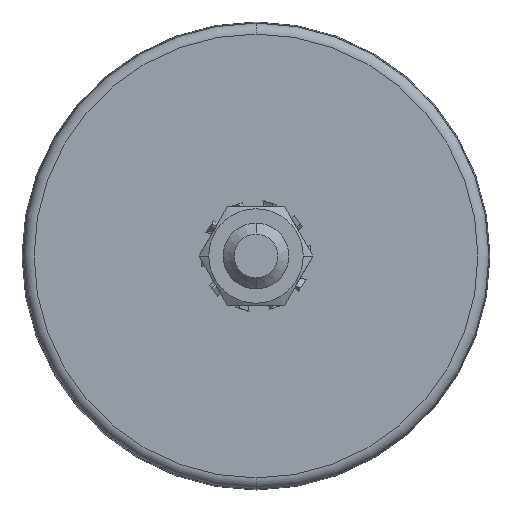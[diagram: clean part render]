
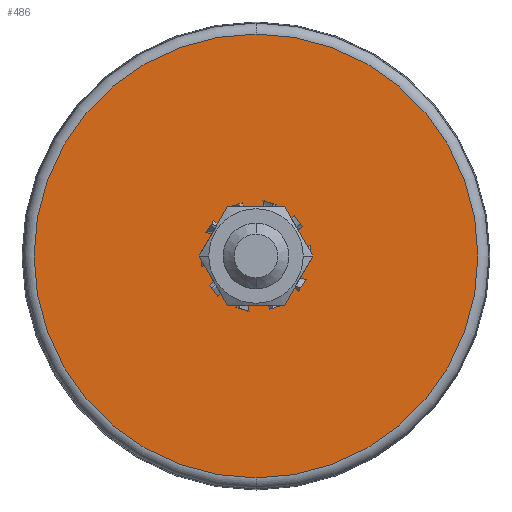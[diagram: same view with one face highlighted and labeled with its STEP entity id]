
A CAD part, front view. The second image highlights one B-rep face of the part: STEP entity #486.
In plain terms, the highlighted planar face has unit normal (0, -1, 0).
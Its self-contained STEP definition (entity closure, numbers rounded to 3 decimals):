
#139 = AXIS2_PLACEMENT_3D ( 'NONE', #205, #7052, #1259 ) ;
#205 = CARTESIAN_POINT ( 'NONE',  ( 0., 0., 0. ) ) ;
#255 = PLANE ( 'NONE',  #2507 ) ;
#273 = DIRECTION ( 'NONE',  ( 0., 1., 0. ) ) ;
#363 = FACE_OUTER_BOUND ( 'NONE', #2685, .T. ) ;
#486 = ADVANCED_FACE ( 'NONE', ( #5756, #363 ), #255, .T. ) ;
#797 = EDGE_CURVE ( 'NONE', #2995, #4729, #1533, .T. ) ;
#835 = DIRECTION ( 'NONE',  ( 0., -1., 0. ) ) ;
#946 = CARTESIAN_POINT ( 'NONE',  ( 0., 0., 40.5 ) ) ;
#1002 = DIRECTION ( 'NONE',  ( 0., -1., 0. ) ) ;
#1028 = CARTESIAN_POINT ( 'NONE',  ( 0., 0., 8. ) ) ;
#1241 = VERTEX_POINT ( 'NONE', #4464 ) ;
#1259 = DIRECTION ( 'NONE',  ( 0., 0., -1. ) ) ;
#1293 = ORIENTED_EDGE ( 'NONE', *, *, #2369, .T. ) ;
#1417 = VERTEX_POINT ( 'NONE', #1028 ) ;
#1533 = CIRCLE ( 'NONE', #2066, 40.5 ) ;
#2066 = AXIS2_PLACEMENT_3D ( 'NONE', #5603, #1002, #3919 ) ;
#2078 = CARTESIAN_POINT ( 'NONE',  ( 0., 0., 0. ) ) ;
#2369 = EDGE_CURVE ( 'NONE', #4729, #2995, #4137, .T. ) ;
#2381 = ORIENTED_EDGE ( 'NONE', *, *, #797, .T. ) ;
#2507 = AXIS2_PLACEMENT_3D ( 'NONE', #3726, #835, #5914 ) ;
#2685 = EDGE_LOOP ( 'NONE', ( #2381, #1293 ) ) ;
#2742 = EDGE_CURVE ( 'NONE', #1417, #1241, #3598, .T. ) ;
#2995 = VERTEX_POINT ( 'NONE', #6734 ) ;
#3070 = CIRCLE ( 'NONE', #3705, 8. ) ;
#3560 = AXIS2_PLACEMENT_3D ( 'NONE', #2078, #6688, #5496 ) ;
#3598 = CIRCLE ( 'NONE', #139, 8. ) ;
#3705 = AXIS2_PLACEMENT_3D ( 'NONE', #4323, #273, #6062 ) ;
#3726 = CARTESIAN_POINT ( 'NONE',  ( 6., 0., 0. ) ) ;
#3919 = DIRECTION ( 'NONE',  ( 0., 0., -1. ) ) ;
#4137 = CIRCLE ( 'NONE', #3560, 40.5 ) ;
#4234 = ORIENTED_EDGE ( 'NONE', *, *, #5257, .T. ) ;
#4323 = CARTESIAN_POINT ( 'NONE',  ( 0., 0., 0. ) ) ;
#4464 = CARTESIAN_POINT ( 'NONE',  ( 0., 0., -8. ) ) ;
#4729 = VERTEX_POINT ( 'NONE', #946 ) ;
#5257 = EDGE_CURVE ( 'NONE', #1241, #1417, #3070, .T. ) ;
#5496 = DIRECTION ( 'NONE',  ( 0., 0., -1. ) ) ;
#5603 = CARTESIAN_POINT ( 'NONE',  ( 0., 0., 0. ) ) ;
#5756 = FACE_BOUND ( 'NONE', #5847, .T. ) ;
#5847 = EDGE_LOOP ( 'NONE', ( #4234, #7371 ) ) ;
#5914 = DIRECTION ( 'NONE',  ( 0., 0., -1. ) ) ;
#6062 = DIRECTION ( 'NONE',  ( 0., 0., -1. ) ) ;
#6688 = DIRECTION ( 'NONE',  ( 0., -1., 0. ) ) ;
#6734 = CARTESIAN_POINT ( 'NONE',  ( 0., 0., -40.5 ) ) ;
#7052 = DIRECTION ( 'NONE',  ( 0., 1., 0. ) ) ;
#7371 = ORIENTED_EDGE ( 'NONE', *, *, #2742, .T. ) ;
